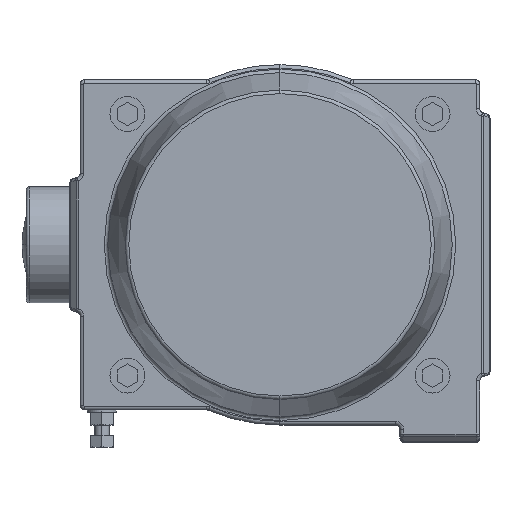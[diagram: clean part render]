
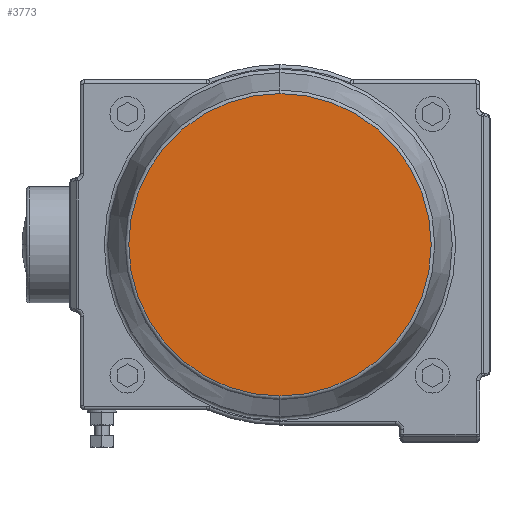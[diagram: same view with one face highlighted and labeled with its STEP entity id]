
A CAD part, left-side view. The second image highlights one B-rep face of the part: STEP entity #3773.
In plain terms, the highlighted planar face has unit normal (-1, 0, 0).
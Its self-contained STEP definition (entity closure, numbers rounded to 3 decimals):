
#986 = AXIS2_PLACEMENT_3D ( 'NONE', #11832, #8982, #1130 ) ;
#1048 = DIRECTION ( 'NONE',  ( 0., 0., 1. ) ) ;
#1130 = DIRECTION ( 'NONE',  ( 0., 0., 1. ) ) ;
#1903 = AXIS2_PLACEMENT_3D ( 'NONE', #16959, #5149, #1048 ) ;
#1974 = ORIENTED_EDGE ( 'NONE', *, *, #8923, .T. ) ;
#2233 = FACE_OUTER_BOUND ( 'NONE', #5921, .T. ) ;
#3202 = CARTESIAN_POINT ( 'NONE',  ( -304., 0., 104.049 ) ) ;
#3475 = VERTEX_POINT ( 'NONE', #9828 ) ;
#3773 = ADVANCED_FACE ( 'NONE', ( #2233 ), #15627, .T. ) ;
#5149 = DIRECTION ( 'NONE',  ( -1., 0., 0. ) ) ;
#5151 = DIRECTION ( 'NONE',  ( -1., 0., 0. ) ) ;
#5921 = EDGE_LOOP ( 'NONE', ( #7704, #1974 ) ) ;
#6324 = VERTEX_POINT ( 'NONE', #3202 ) ;
#7269 = CIRCLE ( 'NONE', #1903, 104.049 ) ;
#7704 = ORIENTED_EDGE ( 'NONE', *, *, #8378, .T. ) ;
#8378 = EDGE_CURVE ( 'NONE', #6324, #3475, #15274, .T. ) ;
#8923 = EDGE_CURVE ( 'NONE', #3475, #6324, #7269, .T. ) ;
#8982 = DIRECTION ( 'NONE',  ( -1., 0., 0. ) ) ;
#9828 = CARTESIAN_POINT ( 'NONE',  ( -304., 0., -104.049 ) ) ;
#10381 = CARTESIAN_POINT ( 'NONE',  ( -304., 0., 0. ) ) ;
#11631 = AXIS2_PLACEMENT_3D ( 'NONE', #10381, #5151, #12621 ) ;
#11832 = CARTESIAN_POINT ( 'NONE',  ( -304., 0., 0. ) ) ;
#12621 = DIRECTION ( 'NONE',  ( 0., 0., 1. ) ) ;
#15274 = CIRCLE ( 'NONE', #11631, 104.049 ) ;
#15627 = PLANE ( 'NONE',  #986 ) ;
#16959 = CARTESIAN_POINT ( 'NONE',  ( -304., 0., 0. ) ) ;
